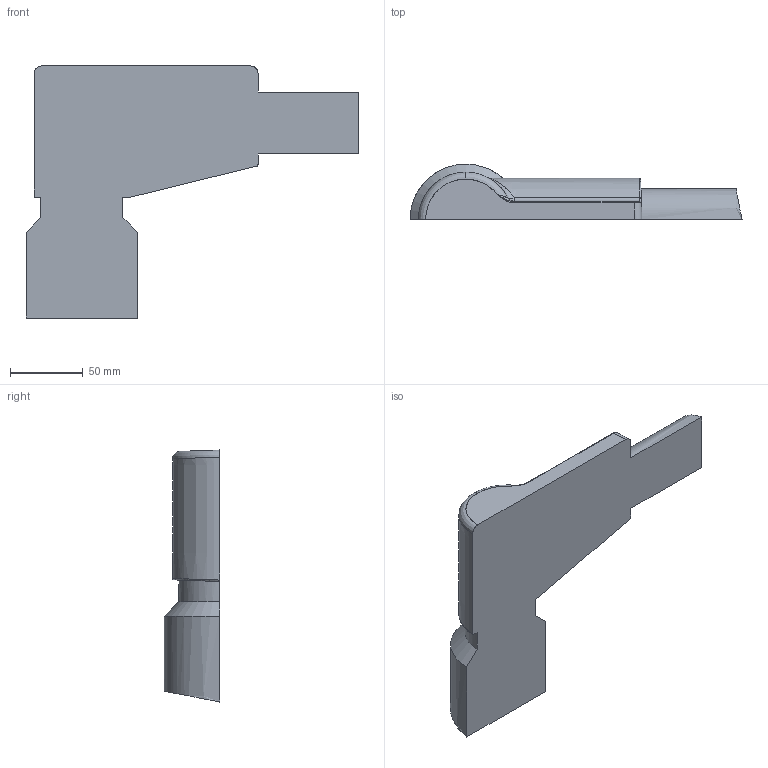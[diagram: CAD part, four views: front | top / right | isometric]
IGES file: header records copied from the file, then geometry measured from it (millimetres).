
Start section: SolidWorks IGES file using analytic representation for surfaces
Global section: file name: C:\Documents and Settings\idebeth\Bureau\08359 - E2 R08\Sujet TM E2 2010 - N° Candidat\Dossier technique\SOLIDWORKS\DEMI MODELE de dessus.IGS; native system: SolidWorks 2009; preprocessor: SolidWorks 2009; author: idebeth; date: 100202.142341; units: millimetre
Bounding box: 227.88 x 38.25 x 172.99 mm (x, y, z)
Surface area: 58842.8 mm2 (no closed solid volume)
Topology: 0 solids, 0 shells, 42 faces, 659 edges, 658 vertices
Faces by surface type: bspline 22, revolution 20
